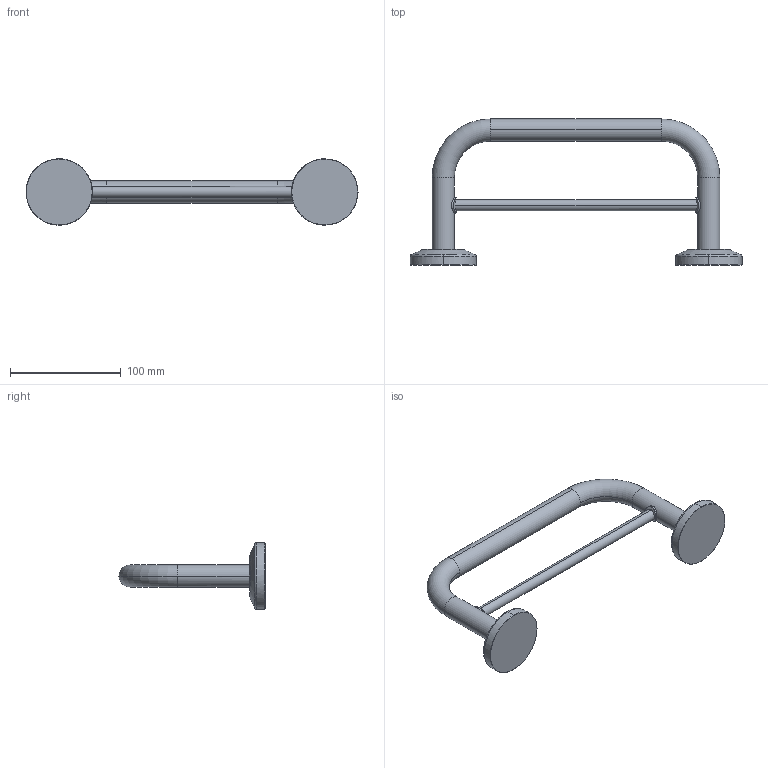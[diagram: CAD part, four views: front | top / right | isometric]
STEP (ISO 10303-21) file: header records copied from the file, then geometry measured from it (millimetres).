
FILE_DESCRIPTION(('THIS FILE CONTAINS SOME STEP INSTANCES'),'1');
FILE_NAME('sta_034.stp','2015-12-07T10:05:14',('UNDEFINED'),('UNDEFINED'),'T-FLEX CAD STEP converter','T-FLEX CAD','');
FILE_SCHEMA(('CONFIG_CONTROL_DESIGN'));
Length unit declared in the file: metre
Products named in the file (1): 3D 鐨飹懤艜_21
Bounding box: 300 x 132 x 60 mm (x, y, z)
Volume: 218907.8 mm3; surface area: 47430.2 mm2
Topology: 1 solids, 1 shells, 64 faces, 156 edges, 94 vertices
Faces by surface type: cylinder 20, bspline 16, cone 12, torus 12, plane 4
Entity records: 6066 total; most frequent: CARTESIAN_POINT 4883, ORIENTED_EDGE 312, EDGE_CURVE 156, DIRECTION 148, VERTEX_POINT 94, EDGE_LOOP 66, ADVANCED_FACE 64, FACE_OUTER_BOUND 64
